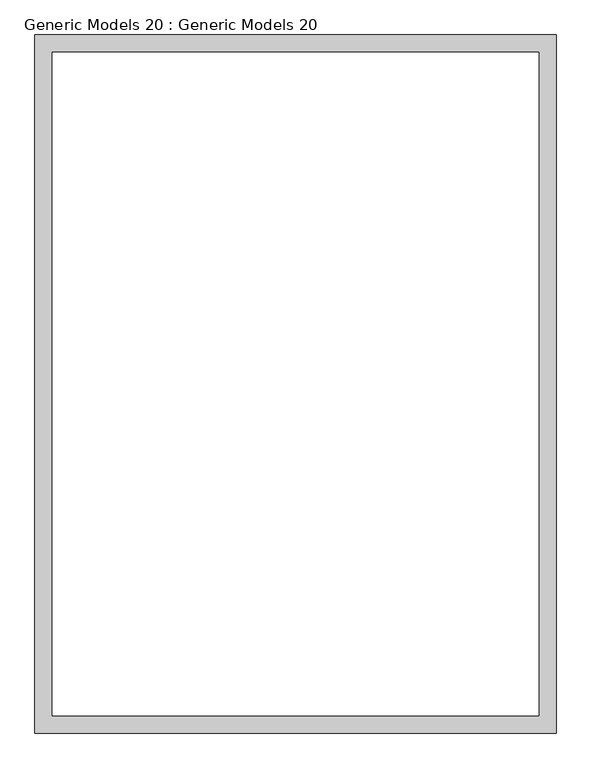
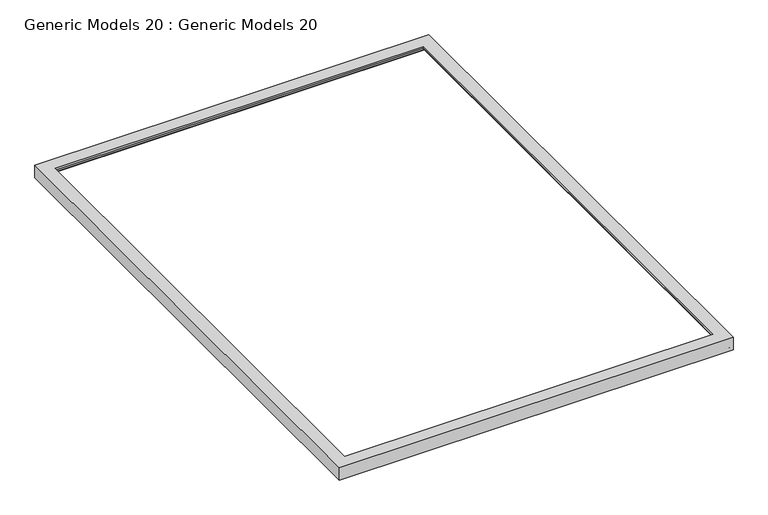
"""IFC4 building model written with IfcOpenShell, lengths in millimetres: proxy geometry, Generic Models 20 : Generic Models 20."""

from ifc_helpers import new_model, si_unit, frame, origin, place, context, project, spatial, polyline, ellipse_curve, source, transform, mapped, element, save
from ifc_brep_helpers import plane_surface, cylinder_surface, revolved_surface, advanced_brep


def generic_models_20_generic_models_20_f8ca420b(model_context):
    return source(origin(), model_context, "Body", "AdvancedBrep", [
        advanced_brep(
        [(-2863.85, 14173.2, 6362.7), (-2863.85, 14173.2, 6451.6), (-2863.85, 10566.4, 6451.6), (-2863.85, 10566.4, 6362.7), (-2912.4710245, 14124.5789755, 6398.6210245), (-2876.55, 14160.5, 6362.7), (-2876.55, 10579.1, 6362.7), (-2912.4710245, 10615.0210245, 6398.6210245), (-2952.75, 14084.3, 6438.9), (-2952.75, 10655.3, 6438.9), (-2952.75, 14084.3, 6451.6), (-2952.75, 10655.3, 6451.6), (-5556.25, 10566.4, 6451.6), (-5556.25, 10566.4, 6362.7), (-5543.55, 10579.1, 6362.7), (-5507.6289755, 10615.0210245, 6398.6210245), (-5467.35, 10655.3, 6438.9), (-5467.35, 10655.3, 6451.6), (-5556.25, 14173.2, 6451.6), (-5556.25, 14173.2, 6362.7), (-5543.55, 14160.5, 6362.7), (-5507.6289755, 14124.5789755, 6398.6210245), (-5467.35, 14084.3, 6438.9), (-5467.35, 14084.3, 6451.6)],
        [
            (0, 1),
            (1, 2),
            (2, 3),
            (3, 0),
            (4, 5, ellipse_curve(frame((-2946.0858393, 14090.9641607, 6329.0851852), z_axis=(-0.7071067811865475, 0.7071067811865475, 0.0), x_axis=(-0.7071067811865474, -0.7071067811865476, 0.0)), 109.2262671, 77.2346342)),
            (5, 6),
            (6, 7, ellipse_curve(frame((-2946.0858393, 10648.6358393, 6329.0851852), z_axis=(-0.7071067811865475, -0.7071067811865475, 0.0), x_axis=(0.7071067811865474, -0.7071067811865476, 0.0)), 109.2262671, 77.2346342)),
            (7, 4),
            (8, 4, ellipse_curve(frame((-2874.7780488, 14162.2719512, 6476.5929757), z_axis=(0.7071067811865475, -0.7071067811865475, 0.0), x_axis=(0.7071067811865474, 0.7071067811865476, 0.0)), 122.4776354, 86.6047665)),
            (7, 9, ellipse_curve(frame((-2874.7780488, 10577.3280488, 6476.5929757), z_axis=(0.7071067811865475, 0.7071067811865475, 0.0), x_axis=(-0.7071067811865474, 0.7071067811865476, 0.0)), 122.4776354, 86.6047665)),
            (9, 8),
            (10, 8),
            (9, 11),
            (11, 10),
            (2, 12),
            (12, 13),
            (13, 3),
            (6, 14),
            (14, 15, ellipse_curve(frame((-5474.0141607, 10648.6358393, 6329.0851852), z_axis=(-0.7071067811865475, 0.7071067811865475, 0.0), x_axis=(-0.7071067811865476, -0.7071067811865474, 0.0)), 109.2262671, 77.2346342)),
            (15, 7),
            (15, 16, ellipse_curve(frame((-5545.3219512, 10577.3280488, 6476.5929757), z_axis=(0.7071067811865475, -0.7071067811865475, 0.0), x_axis=(0.7071067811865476, 0.7071067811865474, 0.0)), 122.4776354, 86.6047665)),
            (16, 9),
            (16, 17),
            (17, 11),
            (12, 18),
            (18, 19),
            (19, 13),
            (14, 20),
            (20, 21, ellipse_curve(frame((-5474.0141607, 14090.9641607, 6329.0851852), z_axis=(0.7071067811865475, 0.7071067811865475, 0.0), x_axis=(-0.7071067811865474, 0.7071067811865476, 0.0)), 109.2262671, 77.2346342)),
            (21, 15),
            (21, 22, ellipse_curve(frame((-5545.3219512, 14162.2719512, 6476.5929757), z_axis=(-0.7071067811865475, -0.7071067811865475, 0.0), x_axis=(0.7071067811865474, -0.7071067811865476, 0.0)), 122.4776354, 86.6047665)),
            (22, 16),
            (22, 23),
            (23, 17),
            (18, 1),
            (0, 19),
            (5, 20),
            (4, 21),
            (8, 22),
            (10, 23),
        ],
        [
            plane_surface(frame((-2863.85, 14173.2, 6451.6), z_axis=(1.0, 0.0, 0.0), x_axis=(0.0, -1.0, 0.0))),
            revolved_surface(polyline([(-2868.8512051, 10571.401205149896, 6329.0851852), (-2868.8512051, 14168.198794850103, 6329.0851852)]), (-2946.0858393, 14173.2, 6329.0851852), (0.0, -1.0, 0.0)),
            cylinder_surface(frame((-2874.7780488, 14173.2, 6476.5929757), z_axis=(0.0, 1.0, 0.0), x_axis=(1.0, 0.0, 0.0)), 86.6047665),
            plane_surface(frame((-2952.75, 14084.3, 6438.9), z_axis=(-1.0, 0.0, 0.0), x_axis=(0.0, -1.0, 0.0))),
            plane_surface(frame((-2863.85, 10566.4, 6451.6), z_axis=(0.0, -1.0, 0.0), x_axis=(-1.0, 0.0, 0.0))),
            revolved_surface(polyline([(-5551.248794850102, 10571.401205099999, 6329.0851852), (-2868.851205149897, 10571.401205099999, 6329.0851852)]), (-2863.85, 10648.6358393, 6329.0851852), (-1.0, 0.0, 0.0)),
            cylinder_surface(frame((-2863.85, 10577.3280488, 6476.5929757), z_axis=(1.0, 0.0, 0.0), x_axis=(0.0, -1.0, 0.0)), 86.6047665),
            plane_surface(frame((-2952.75, 10655.3, 6438.9), z_axis=(0.0, 1.0, 0.0), x_axis=(-1.0, 0.0, 0.0))),
            plane_surface(frame((-5556.25, 10566.4, 6451.6), z_axis=(-1.0, 0.0, 0.0), x_axis=(0.0, 1.0, 0.0))),
            revolved_surface(polyline([(-5551.2487949, 14168.198794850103, 6329.0851852), (-5551.2487949, 10571.401205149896, 6329.0851852)]), (-5474.0141607, 10566.4, 6329.0851852), (0.0, 1.0, 0.0)),
            cylinder_surface(frame((-5545.3219512, 10566.4, 6476.5929757), z_axis=(0.0, -1.0, 0.0), x_axis=(-1.0, 0.0, 0.0)), 86.6047665),
            plane_surface(frame((-5467.35, 10655.3, 6438.9), z_axis=(1.0, 0.0, 0.0), x_axis=(0.0, 1.0, 0.0))),
            plane_surface(frame((-5556.25, 14173.2, 6451.6), z_axis=(0.0, 1.0, 0.0), x_axis=(1.0, 0.0, 0.0))),
            plane_surface(frame((-5556.25, 14173.2, 6362.7), z_axis=(0.0, 0.0, -1.0), x_axis=(1.0, 0.0, 0.0))),
            revolved_surface(polyline([(-2868.851205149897, 14168.1987949, 6329.0851852), (-5551.248794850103, 14168.1987949, 6329.0851852)]), (-5556.25, 14090.9641607, 6329.0851852), (1.0, 0.0, 0.0)),
            cylinder_surface(frame((-5556.25, 14162.2719512, 6476.5929757), z_axis=(-1.0, 0.0, 0.0), x_axis=(0.0, 1.0, 0.0)), 86.6047665),
            plane_surface(frame((-5467.35, 14084.3, 6438.9), z_axis=(0.0, -1.0, 0.0), x_axis=(1.0, 0.0, 0.0))),
            plane_surface(frame((-5467.35, 14084.3, 6451.6), z_axis=(0.0, 0.0, 1.0), x_axis=(1.0, 0.0, 0.0))),
        ],
        [
            (0, [[1, 2, 3, 4]]),
            (1, [[5, 6, 7, 8]]),
            (2, [[9, -8, 10, 11]]),
            (3, [[12, -11, 13, 14]]),
            (4, [[-3, 15, 16, 17]]),
            (5, [[-7, 18, 19, 20]]),
            (6, [[-10, -20, 21, 22]]),
            (7, [[-13, -22, 23, 24]]),
            (8, [[-16, 25, 26, 27]]),
            (9, [[-19, 28, 29, 30]]),
            (10, [[-21, -30, 31, 32]]),
            (11, [[-23, -32, 33, 34]]),
            (12, [[-26, 35, -1, 36]]),
            (13, [[-17, -27, -36, -4], [37, -28, -18, -6]]),
            (14, [[-29, -37, -5, 38]]),
            (15, [[-31, -38, -9, 39]]),
            (16, [[-33, -39, -12, 40]]),
            (17, [[-35, -25, -15, -2], [-24, -34, -40, -14]]),
        ],
    ),
    ])


if __name__ == "__main__":
    model = new_model("IFC4")
    model_context = context("Model", 3, world=origin())
    ifc_project = project(units=[si_unit("LENGTHUNIT", "METRE", prefix="MILLI")], contexts=[model_context])
    site = spatial("IfcSite", under=ifc_project)
    building = spatial("IfcBuilding", under=site)
    placement = place(None, origin())
    generic_models_20_generic_models_20_shape = generic_models_20_generic_models_20_f8ca420b(model_context)
    element("IfcBuildingElementProxy", 1, Name="Generic Models 20 : Generic Models 20", ObjectType="Generic Models 20 : Generic Models 20", at=placement, inside=building, context=model_context, shape_type="MappedRepresentation", body=[
        mapped(generic_models_20_generic_models_20_shape, transform((0.0, 0.0, 0.0), x_axis=(1.0, 0.0, 0.0), y_axis=(0.0, 1.0, 0.0), z_axis=(0.0, 0.0, 1.0))),
    ])
    save(model, "model.ifc")
